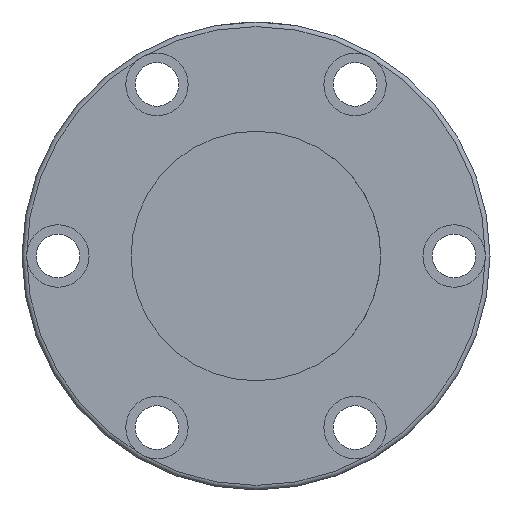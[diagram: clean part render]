
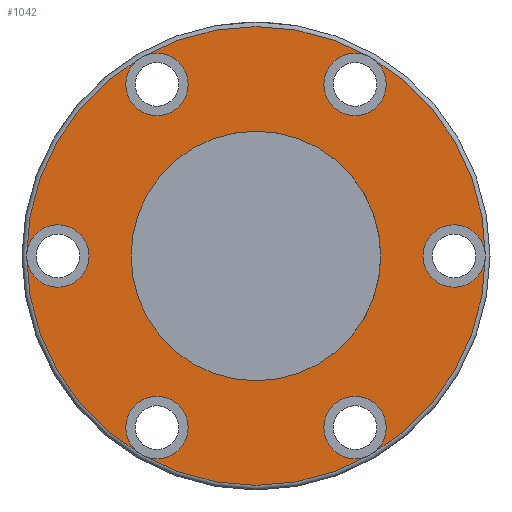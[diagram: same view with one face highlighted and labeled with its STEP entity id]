
A CAD part, front view. The second image highlights one B-rep face of the part: STEP entity #1042.
In plain terms, the highlighted planar face has unit normal (0, -1, 0).
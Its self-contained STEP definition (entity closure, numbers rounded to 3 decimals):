
#36 = EDGE_LOOP ( 'NONE', ( #843 ) ) ;
#50 = VERTEX_POINT ( 'NONE', #580 ) ;
#60 = ORIENTED_EDGE ( 'NONE', *, *, #859, .T. ) ;
#64 = CARTESIAN_POINT ( 'NONE',  ( 31.789, -46.461, 64.993 ) ) ;
#71 = EDGE_LOOP ( 'NONE', ( #1054 ) ) ;
#77 = EDGE_CURVE ( 'NONE', #1108, #1108, #467, .T. ) ;
#96 = CARTESIAN_POINT ( 'NONE',  ( -31.711, -46.461, -44.993 ) ) ;
#104 = EDGE_LOOP ( 'NONE', ( #892 ) ) ;
#111 = FACE_BOUND ( 'NONE', #104, .T. ) ;
#125 = ORIENTED_EDGE ( 'NONE', *, *, #400, .T. ) ;
#132 = CARTESIAN_POINT ( 'NONE',  ( 0.039, -46.461, 0. ) ) ;
#138 = AXIS2_PLACEMENT_3D ( 'NONE', #980, #536, #465 ) ;
#146 = AXIS2_PLACEMENT_3D ( 'NONE', #984, #453, #201 ) ;
#154 = AXIS2_PLACEMENT_3D ( 'NONE', #726, #1066, #213 ) ;
#162 = EDGE_CURVE ( 'NONE', #477, #477, #537, .T. ) ;
#183 = VERTEX_POINT ( 'NONE', #96 ) ;
#186 = FACE_BOUND ( 'NONE', #780, .T. ) ;
#195 = EDGE_CURVE ( 'NONE', #391, #391, #430, .T. ) ;
#201 = DIRECTION ( 'NONE',  ( 0., 0., 1. ) ) ;
#213 = DIRECTION ( 'NONE',  ( 0., 0., 1. ) ) ;
#234 = EDGE_LOOP ( 'NONE', ( #60 ) ) ;
#279 = PLANE ( 'NONE',  #932 ) ;
#292 = DIRECTION ( 'NONE',  ( 0., 0., 1. ) ) ;
#304 = CARTESIAN_POINT ( 'NONE',  ( 0.039, -46.461, 73.533 ) ) ;
#309 = DIRECTION ( 'NONE',  ( 0., 0., 1. ) ) ;
#323 = CARTESIAN_POINT ( 'NONE',  ( -39.961, -46.461, 0. ) ) ;
#343 = CARTESIAN_POINT ( 'NONE',  ( 63.539, -46.461, 0. ) ) ;
#359 = CIRCLE ( 'NONE', #1076, 10. ) ;
#369 = DIRECTION ( 'NONE',  ( 1., 0., 0. ) ) ;
#383 = EDGE_LOOP ( 'NONE', ( #799 ) ) ;
#389 = CARTESIAN_POINT ( 'NONE',  ( 31.789, -46.461, 54.993 ) ) ;
#391 = VERTEX_POINT ( 'NONE', #64 ) ;
#400 = EDGE_CURVE ( 'NONE', #50, #50, #1126, .T. ) ;
#407 = EDGE_CURVE ( 'NONE', #746, #746, #630, .T. ) ;
#409 = CARTESIAN_POINT ( 'NONE',  ( 0.039, -46.461, 0. ) ) ;
#426 = ORIENTED_EDGE ( 'NONE', *, *, #195, .T. ) ;
#430 = CIRCLE ( 'NONE', #744, 10. ) ;
#442 = DIRECTION ( 'NONE',  ( 0., 0., 1. ) ) ;
#453 = DIRECTION ( 'NONE',  ( 0., 1., 0. ) ) ;
#458 = FACE_BOUND ( 'NONE', #71, .T. ) ;
#463 = FACE_BOUND ( 'NONE', #848, .T. ) ;
#465 = DIRECTION ( 'NONE',  ( 0., 0., 1. ) ) ;
#467 = CIRCLE ( 'NONE', #1110, 73.533 ) ;
#477 = VERTEX_POINT ( 'NONE', #323 ) ;
#492 = DIRECTION ( 'NONE',  ( 0., 0., 1. ) ) ;
#513 = DIRECTION ( 'NONE',  ( 0., 1., 0. ) ) ;
#534 = FACE_BOUND ( 'NONE', #383, .T. ) ;
#536 = DIRECTION ( 'NONE',  ( 0., 1., 0. ) ) ;
#537 = CIRCLE ( 'NONE', #819, 40. ) ;
#540 = FACE_BOUND ( 'NONE', #938, .T. ) ;
#542 = CIRCLE ( 'NONE', #146, 10. ) ;
#552 = DIRECTION ( 'NONE',  ( -1., 0., 0. ) ) ;
#580 = CARTESIAN_POINT ( 'NONE',  ( 31.789, -46.461, -44.993 ) ) ;
#624 = CARTESIAN_POINT ( 'NONE',  ( -31.711, -46.461, -54.993 ) ) ;
#630 = CIRCLE ( 'NONE', #154, 10. ) ;
#706 = DIRECTION ( 'NONE',  ( 0., 1., 0. ) ) ;
#709 = VERTEX_POINT ( 'NONE', #891 ) ;
#726 = CARTESIAN_POINT ( 'NONE',  ( -31.711, -46.461, 54.993 ) ) ;
#736 = DIRECTION ( 'NONE',  ( 0., 1., 0. ) ) ;
#744 = AXIS2_PLACEMENT_3D ( 'NONE', #389, #736, #309 ) ;
#746 = VERTEX_POINT ( 'NONE', #1027 ) ;
#748 = CIRCLE ( 'NONE', #874, 10. ) ;
#759 = VERTEX_POINT ( 'NONE', #879 ) ;
#762 = EDGE_CURVE ( 'NONE', #759, #759, #748, .T. ) ;
#780 = EDGE_LOOP ( 'NONE', ( #125 ) ) ;
#799 = ORIENTED_EDGE ( 'NONE', *, *, #407, .T. ) ;
#809 = DIRECTION ( 'NONE',  ( 0., 1., 0. ) ) ;
#819 = AXIS2_PLACEMENT_3D ( 'NONE', #132, #910, #552 ) ;
#828 = EDGE_CURVE ( 'NONE', #183, #183, #359, .T. ) ;
#843 = ORIENTED_EDGE ( 'NONE', *, *, #77, .T. ) ;
#848 = EDGE_LOOP ( 'NONE', ( #426 ) ) ;
#859 = EDGE_CURVE ( 'NONE', #709, #709, #542, .T. ) ;
#874 = AXIS2_PLACEMENT_3D ( 'NONE', #343, #513, #442 ) ;
#879 = CARTESIAN_POINT ( 'NONE',  ( 63.539, -46.461, 10. ) ) ;
#887 = FACE_OUTER_BOUND ( 'NONE', #36, .T. ) ;
#891 = CARTESIAN_POINT ( 'NONE',  ( -63.461, -46.461, 10. ) ) ;
#892 = ORIENTED_EDGE ( 'NONE', *, *, #762, .T. ) ;
#893 = CARTESIAN_POINT ( 'NONE',  ( 0.039, -46.461, 0. ) ) ;
#910 = DIRECTION ( 'NONE',  ( 0., 1., 0. ) ) ;
#927 = DIRECTION ( 'NONE',  ( 0., -1., 0. ) ) ;
#932 = AXIS2_PLACEMENT_3D ( 'NONE', #893, #809, #369 ) ;
#938 = EDGE_LOOP ( 'NONE', ( #949 ) ) ;
#949 = ORIENTED_EDGE ( 'NONE', *, *, #162, .T. ) ;
#980 = CARTESIAN_POINT ( 'NONE',  ( 31.789, -46.461, -54.993 ) ) ;
#984 = CARTESIAN_POINT ( 'NONE',  ( -63.461, -46.461, 0. ) ) ;
#1027 = CARTESIAN_POINT ( 'NONE',  ( -31.711, -46.461, 64.993 ) ) ;
#1042 = ADVANCED_FACE ( 'NONE', ( #111, #1056, #186, #458, #463, #534, #887, #540 ), #279, .F. ) ;
#1054 = ORIENTED_EDGE ( 'NONE', *, *, #828, .T. ) ;
#1056 = FACE_BOUND ( 'NONE', #234, .T. ) ;
#1066 = DIRECTION ( 'NONE',  ( 0., 1., 0. ) ) ;
#1076 = AXIS2_PLACEMENT_3D ( 'NONE', #624, #706, #292 ) ;
#1108 = VERTEX_POINT ( 'NONE', #304 ) ;
#1110 = AXIS2_PLACEMENT_3D ( 'NONE', #409, #927, #492 ) ;
#1126 = CIRCLE ( 'NONE', #138, 10. ) ;
